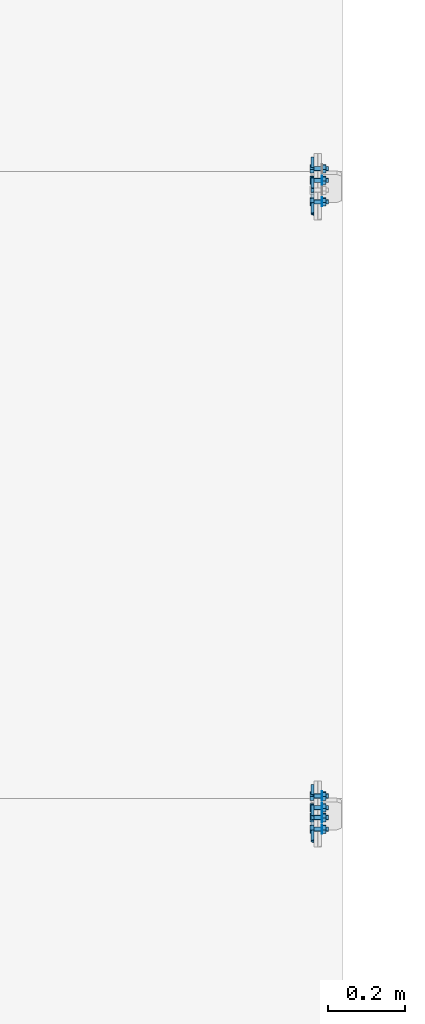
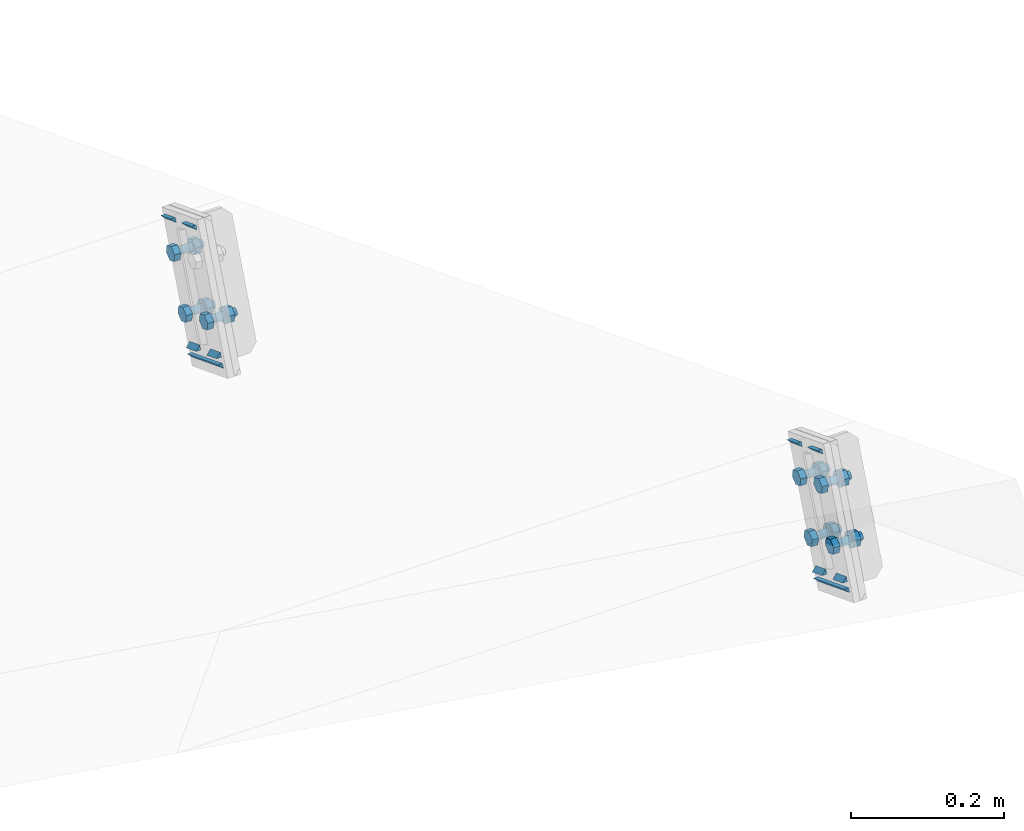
# One storey, part 62 of 72: 27 mechanical fasteners, 20 fasteners.
"""IFC4 building model written with IfcOpenShell, lengths in metres."""

from ifc_helpers import new_model, si_unit, frame, origin_with_axes, place, context, project, spatial, polyline, outline, extrude, type_object, element, save


model = new_model("IFC4")

# Units and contexts
model_context = context("Model", 3, precision=1e-05, world=origin_with_axes())
ifc_project = project(units=[si_unit("LENGTHUNIT", "METRE"), si_unit("AREAUNIT", "SQUARE_METRE"), si_unit("VOLUMEUNIT", "CUBIC_METRE"), si_unit("MASSUNIT", "GRAM", prefix="KILO"), si_unit("TIMEUNIT", "SECOND"), si_unit("PLANEANGLEUNIT", "RADIAN"), si_unit("SOLIDANGLEUNIT", "STERADIAN"), si_unit("THERMODYNAMICTEMPERATUREUNIT", "DEGREE_CELSIUS")], contexts=[model_context])

# Site, building, storey
placement_1 = place(None, origin_with_axes())
site = spatial("IfcSite", under=ifc_project, at=placement_1, Name="Italia", CompositionType="ELEMENT")
building = spatial("IfcBuilding", under=site, at=placement_1, Name="Uffici", CompositionType="ELEMENT")
storey = spatial("IfcBuildingStorey", under=building, at=placement_1, Name="Storey 0", CompositionType="ELEMENT", Elevation=0.0)

# Fasteners
fastener_type_1 = type_object("IfcFastenerType", Name="Collegamento -020_-019", PredefinedType="WELD")
placement_2 = place(placement_1, origin_with_axes())
fastener_1_placement = place(placement_2, origin_with_axes())
element("IfcFastener", 1, at=fastener_1_placement, inside=storey, type_object=fastener_type_1, Name="Collegamento -020_-019", context=model_context, shape_type="SweptSolid", body=[
    extrude(outline(polyline([(0.0, 0.0), (-0.00717354, 0.00695848), (0.0, 0.00695848), (0.0, 0.0)])), frame((13.8951, 3.30124, 5.94341), z_axis=(0.0, -0.93237841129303, 0.361483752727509), x_axis=(1.0, 0.0, 0.0)), (0.0, 0.0, 1.0), 0.0283002),
])
fastener_type_2 = type_object("IfcFastenerType", Name="Collegamento -020_-019", PredefinedType="WELD")
fastener_2_placement = place(placement_2, origin_with_axes())
element("IfcFastener", 2, at=fastener_2_placement, inside=storey, type_object=fastener_type_2, Name="Collegamento -020_-019", context=model_context, shape_type="SweptSolid", body=[
    extrude(outline(polyline([(0.0, 0.0), (0.00717354, -0.00695848), (0.0, -0.00695848), (0.0, 0.0)])), frame((13.8951, 3.2137, 5.79589), z_axis=(0.0, 0.932389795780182, -0.361454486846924), x_axis=(-1.0, 0.0, 0.0)), (0.0, 0.0, 1.0), 0.0282999),
])
fastener_type_3 = type_object("IfcFastenerType", Name="Collegamento -020_-019", PredefinedType="WELD")
fastener_3_placement = place(placement_2, origin_with_axes())
element("IfcFastener", 3, at=fastener_3_placement, inside=storey, type_object=fastener_type_3, Name="Collegamento -020_-019", context=model_context, shape_type="SweptSolid", body=[
    extrude(outline(polyline([(0.0, 0.0), (-0.00717354, 0.00695848), (0.0, 0.00695848), (0.0, 0.0)])), frame((13.8951, 3.23202, 5.76485), z_axis=(0.0, -0.932387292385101, 0.361460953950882), x_axis=(1.0, 0.0, 0.0)), (0.0, 0.0, 1.0), 0.0860998),
])
fastener_type_4 = type_object("IfcFastenerType", Name="Collegamento -020_-019", PredefinedType="WELD")
fastener_4_placement = place(placement_2, origin_with_axes())
element("IfcFastener", 4, at=fastener_4_placement, inside=storey, type_object=fastener_type_4, Name="Collegamento -020_-019", context=model_context, shape_type="SweptSolid", body=[
    extrude(outline(polyline([(0.0, 0.0), (0.00717354, -0.00695801), (0.0, -0.00695801), (0.0, 0.0)])), frame((13.8951, 3.1598, 5.81678), z_axis=(0.0, 0.932380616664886, -0.361478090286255), x_axis=(-1.0, 0.0, 0.0)), (0.0, 0.0, 1.0), 0.0283007),
])
fastener_type_5 = type_object("IfcFastenerType", Name="Collegamento -020_-019", PredefinedType="WELD")
fastener_5_placement = place(placement_2, origin_with_axes())
element("IfcFastener", 5, at=fastener_5_placement, inside=storey, type_object=fastener_type_5, Name="Collegamento -020_-019", context=model_context, shape_type="SweptSolid", body=[
    extrude(outline(polyline([(0.0, 0.0), (-0.00717354, 0.00695801), (0.0, 0.00695801), (0.0, 0.0)])), frame((13.8951, 3.24734, 5.9643), z_axis=(0.0, -0.932387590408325, 0.361460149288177), x_axis=(1.0, 0.0, 0.0)), (0.0, 0.0, 1.0), 0.0282994),
])
fastener_type_6 = type_object("IfcFastenerType", Name="Collegamento -020_-019", PredefinedType="WELD")
fastener_6_placement = place(placement_2, origin_with_axes())
element("IfcFastener", 6, at=fastener_6_placement, inside=storey, type_object=fastener_type_6, Name="Collegamento -020_-019", context=model_context, shape_type="SweptSolid", body=[
    extrude(outline(polyline([(0.0, 0.0), (-0.00717354, 0.00695848), (0.0, 0.00695848), (0.0, 0.0)])), frame((13.8951, 3.30124, 5.94341), z_axis=(0.0, -0.93237841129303, 0.361483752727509), x_axis=(1.0, 0.0, 0.0)), (0.0, 0.0, 1.0), 0.0283002),
])
fastener_type_7 = type_object("IfcFastenerType", Name="Collegamento -020_-019", PredefinedType="WELD")
fastener_7_placement = place(placement_2, origin_with_axes())
element("IfcFastener", 7, at=fastener_7_placement, inside=storey, type_object=fastener_type_7, Name="Collegamento -020_-019", context=model_context, shape_type="SweptSolid", body=[
    extrude(outline(polyline([(0.0, 0.0), (0.00717354, -0.00695848), (0.0, -0.00695848), (0.0, 0.0)])), frame((13.8951, 3.2137, 5.79589), z_axis=(0.0, 0.932389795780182, -0.361454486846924), x_axis=(-1.0, 0.0, 0.0)), (0.0, 0.0, 1.0), 0.0282999),
])
fastener_type_8 = type_object("IfcFastenerType", Name="Collegamento -020_-019", PredefinedType="WELD")
fastener_8_placement = place(placement_2, origin_with_axes())
element("IfcFastener", 8, at=fastener_8_placement, inside=storey, type_object=fastener_type_8, Name="Collegamento -020_-019", context=model_context, shape_type="SweptSolid", body=[
    extrude(outline(polyline([(0.0, 0.0), (-0.00717354, 0.00695848), (0.0, 0.00695848), (0.0, 0.0)])), frame((13.8951, 3.23202, 5.76485), z_axis=(0.0, -0.932387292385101, 0.361460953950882), x_axis=(1.0, 0.0, 0.0)), (0.0, 0.0, 1.0), 0.0860998),
])
fastener_type_9 = type_object("IfcFastenerType", Name="Collegamento -020_-019", PredefinedType="WELD")
fastener_9_placement = place(placement_2, origin_with_axes())
element("IfcFastener", 9, at=fastener_9_placement, inside=storey, type_object=fastener_type_9, Name="Collegamento -020_-019", context=model_context, shape_type="SweptSolid", body=[
    extrude(outline(polyline([(0.0, 0.0), (0.00717354, -0.00695801), (0.0, -0.00695801), (0.0, 0.0)])), frame((13.8951, 3.1598, 5.81678), z_axis=(0.0, 0.932380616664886, -0.361478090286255), x_axis=(-1.0, 0.0, 0.0)), (0.0, 0.0, 1.0), 0.0283007),
])
fastener_type_10 = type_object("IfcFastenerType", Name="Collegamento -020_-019", PredefinedType="WELD")
fastener_10_placement = place(placement_2, origin_with_axes())
element("IfcFastener", 10, at=fastener_10_placement, inside=storey, type_object=fastener_type_10, Name="Collegamento -020_-019", context=model_context, shape_type="SweptSolid", body=[
    extrude(outline(polyline([(0.0, 0.0), (-0.00717354, 0.00695801), (0.0, 0.00695801), (0.0, 0.0)])), frame((13.8951, 3.24734, 5.9643), z_axis=(0.0, -0.932387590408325, 0.361460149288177), x_axis=(1.0, 0.0, 0.0)), (0.0, 0.0, 1.0), 0.0282994),
])

# Mechanical fasteners
mechanical_fastener_type_1 = type_object("IfcMechanicalFastenerType", Name="Collegamento -020_-019", PredefinedType="BOLT")
mechanical_fastener_1_placement = place(placement_2, origin_with_axes())
element("IfcMechanicalFastener", 11, at=mechanical_fastener_1_placement, inside=storey, type_object=mechanical_fastener_type_1, Name="Collegamento -020_-019", NominalDiameter=0.0119999, context=model_context, shape_type="SweptSolid", body=[
    extrude(outline(polyline([(0.0, 0.0), (-0.0111887, -0.00433731), (-0.0205395, 0.00318336), (-0.0187016, 0.0150418), (-0.00751281, 0.0193796), (0.00183773, 0.0118585), (0.0, 0.0)])), frame((13.895, 3.23396, 5.82257), z_axis=(-1.0, 0.0, 0.0), x_axis=(0.0, -1.0, 0.0)), (0.0, 0.0, 1.0), 0.00959969),
])
mechanical_fastener_type_2 = type_object("IfcMechanicalFastenerType", Name="Collegamento -020_-019", PredefinedType="BOLT")
mechanical_fastener_2_placement = place(placement_2, origin_with_axes())
element("IfcMechanicalFastener", 12, at=mechanical_fastener_2_placement, inside=storey, type_object=mechanical_fastener_type_2, Name="Collegamento -020_-019", NominalDiameter=0.012, context=model_context, shape_type="SweptSolid", body=[
    extrude(outline(polyline([(0.0, 0.0), (-0.000204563, -0.00155306), (-0.000803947, -0.00299978), (-0.00175738, -0.00424242), (-0.00300002, -0.00519609), (-0.00444722, -0.00579548), (-0.00600004, -0.00600004), (-0.00755286, -0.00579548), (-0.00900006, -0.00519609), (-0.0102427, -0.00424242), (-0.0111961, -0.00299978), (-0.0117955, -0.00155306), (-0.0120001, 0.0), (-0.0117955, 0.00155306), (-0.0111961, 0.00299978), (-0.0102427, 0.00424242), (-0.00900006, 0.00519609), (-0.00755286, 0.00579548), (-0.00600004, 0.00600004), (-0.00444722, 0.00579548), (-0.00300002, 0.00519609), (-0.00175738, 0.00424242), (-0.000803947, 0.00299978), (-0.000204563, 0.00155306), (0.0, 0.0)])), frame((13.933, 3.23731, 5.83009), z_axis=(-1.0, 0.0, 0.0), x_axis=(0.0, -1.0, 0.0)), (0.0, 0.0, 1.0), 0.0380001),
])
mechanical_fastener_type_3 = type_object("IfcMechanicalFastenerType", Name="Collegamento -020_-019", PredefinedType="BOLT")
mechanical_fastener_3_placement = place(placement_2, origin_with_axes())
element("IfcMechanicalFastener", 13, at=mechanical_fastener_3_placement, inside=storey, type_object=mechanical_fastener_type_3, Name="Collegamento -020_-019", NominalDiameter=0.0119999, context=model_context, shape_type="SweptSolid", body=[
    extrude(outline(polyline([(0.0, 0.0), (-0.0111887, -0.00433731), (-0.0205395, 0.00318336), (-0.0187016, 0.0150418), (-0.00751281, 0.0193796), (0.00183773, 0.0118585), (0.0, 0.0)])), frame((13.9266, 3.23396, 5.82257), z_axis=(-1.0, 0.0, 0.0), x_axis=(0.0, -1.0, 0.0)), (0.0, 0.0, 1.0), 0.00959969),
])
mechanical_fastener_type_4 = type_object("IfcMechanicalFastenerType", Name="Collegamento -020_-019", PredefinedType="BOLT")
mechanical_fastener_4_placement = place(placement_2, origin_with_axes())
element("IfcMechanicalFastener", 14, at=mechanical_fastener_4_placement, inside=storey, type_object=mechanical_fastener_type_4, Name="Collegamento -020_-019", NominalDiameter=0.024, context=model_context, shape_type="SweptSolid", body=[
    extrude(outline(polyline([(0.0, 0.0), (-0.000408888, -0.00310564), (-0.00160789, -0.00600004), (-0.00351477, -0.00848532), (-0.00600004, -0.0103922), (-0.00889421, -0.011591), (-0.0120001, -0.0120001), (-0.015106, -0.011591), (-0.0180001, -0.0103922), (-0.0204854, -0.00848532), (-0.0223923, -0.00600004), (-0.0235913, -0.00310564), (-0.0240002, 0.0), (-0.0235913, 0.00310564), (-0.0223923, 0.00600004), (-0.0204854, 0.00848532), (-0.0180001, 0.0103922), (-0.015106, 0.011591), (-0.0120001, 0.0120001), (-0.00889421, 0.011591), (-0.00600004, 0.0103922), (-0.00351477, 0.00848532), (-0.00160789, 0.00600004), (-0.000408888, 0.00310564), (0.0, 0.0)])), frame((13.917, 3.23131, 5.83009), z_axis=(-1.0, 0.0, 0.0), x_axis=(0.0, -1.0, 0.0)), (0.0, 0.0, 1.0), 0.00199986),
])
mechanical_fastener_type_5 = type_object("IfcMechanicalFastenerType", Name="Collegamento -020_-019", PredefinedType="BOLT")
mechanical_fastener_5_placement = place(placement_2, origin_with_axes())
element("IfcMechanicalFastener", 15, at=mechanical_fastener_5_placement, inside=storey, type_object=mechanical_fastener_type_5, Name="Collegamento -020_-019", NominalDiameter=0.0119997, context=model_context, shape_type="SweptSolid", body=[
    extrude(outline(polyline([(0.0, 0.0), (-0.0111887, -0.00433779), (-0.0205395, 0.00318336), (-0.0187016, 0.0150418), (-0.00751281, 0.0193791), (0.00183773, 0.0118585), (0.0, 0.0)])), frame((13.895, 3.17802, 5.84426), z_axis=(-1.0, 0.0, 0.0), x_axis=(0.0, -1.0, 0.0)), (0.0, 0.0, 1.0), 0.00959969),
])
mechanical_fastener_type_6 = type_object("IfcMechanicalFastenerType", Name="Collegamento -020_-019", PredefinedType="BOLT")
mechanical_fastener_6_placement = place(placement_2, origin_with_axes())
element("IfcMechanicalFastener", 16, at=mechanical_fastener_6_placement, inside=storey, type_object=mechanical_fastener_type_6, Name="Collegamento -020_-019", NominalDiameter=0.012, context=model_context, shape_type="SweptSolid", body=[
    extrude(outline(polyline([(0.0, 0.0), (-0.000204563, -0.00155306), (-0.000803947, -0.00299978), (-0.00175738, -0.00424242), (-0.00300002, -0.00519609), (-0.00444722, -0.00579548), (-0.00600004, -0.00600004), (-0.00755286, -0.00579548), (-0.00900006, -0.00519609), (-0.0102427, -0.00424242), (-0.0111961, -0.00299978), (-0.0117955, -0.00155306), (-0.0120001, 0.0), (-0.0117955, 0.00155306), (-0.0111961, 0.00299978), (-0.0102427, 0.00424242), (-0.00900006, 0.00519609), (-0.00755286, 0.00579548), (-0.00600004, 0.00600004), (-0.00444722, 0.00579548), (-0.00300002, 0.00519609), (-0.00175738, 0.00424242), (-0.000803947, 0.00299978), (-0.000204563, 0.00155306), (0.0, 0.0)])), frame((13.933, 3.18137, 5.85178), z_axis=(-1.0, 0.0, 0.0), x_axis=(0.0, -1.0, 0.0)), (0.0, 0.0, 1.0), 0.0380001),
])
mechanical_fastener_type_7 = type_object("IfcMechanicalFastenerType", Name="Collegamento -020_-019", PredefinedType="BOLT")
mechanical_fastener_7_placement = place(placement_2, origin_with_axes())
element("IfcMechanicalFastener", 17, at=mechanical_fastener_7_placement, inside=storey, type_object=mechanical_fastener_type_7, Name="Collegamento -020_-019", NominalDiameter=0.0119997, context=model_context, shape_type="SweptSolid", body=[
    extrude(outline(polyline([(0.0, 0.0), (-0.0111887, -0.00433779), (-0.0205395, 0.00318336), (-0.0187016, 0.0150418), (-0.00751281, 0.0193791), (0.00183773, 0.0118585), (0.0, 0.0)])), frame((13.9266, 3.17802, 5.84426), z_axis=(-1.0, 0.0, 0.0), x_axis=(0.0, -1.0, 0.0)), (0.0, 0.0, 1.0), 0.00959969),
])
mechanical_fastener_type_8 = type_object("IfcMechanicalFastenerType", Name="Collegamento -020_-019", PredefinedType="BOLT")
mechanical_fastener_8_placement = place(placement_2, origin_with_axes())
element("IfcMechanicalFastener", 18, at=mechanical_fastener_8_placement, inside=storey, type_object=mechanical_fastener_type_8, Name="Collegamento -020_-019", NominalDiameter=0.024, context=model_context, shape_type="SweptSolid", body=[
    extrude(outline(polyline([(0.0, 0.0), (-0.000408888, -0.00310564), (-0.00160789, -0.00600004), (-0.00351477, -0.00848532), (-0.00600004, -0.0103922), (-0.00889421, -0.011591), (-0.0120001, -0.0120001), (-0.015106, -0.011591), (-0.0180001, -0.0103922), (-0.0204854, -0.00848532), (-0.0223923, -0.00600004), (-0.0235913, -0.00310564), (-0.0240002, 0.0), (-0.0235913, 0.00310564), (-0.0223923, 0.00600004), (-0.0204854, 0.00848532), (-0.0180001, 0.0103922), (-0.015106, 0.011591), (-0.0120001, 0.0120001), (-0.00889421, 0.011591), (-0.00600004, 0.0103922), (-0.00351477, 0.00848532), (-0.00160789, 0.00600004), (-0.000408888, 0.00310564), (0.0, 0.0)])), frame((13.917, 3.17537, 5.85178), z_axis=(-1.0, 0.0, 0.0), x_axis=(0.0, -1.0, 0.0)), (0.0, 0.0, 1.0), 0.00199986),
])
mechanical_fastener_type_9 = type_object("IfcMechanicalFastenerType", Name="Collegamento -020_-019", PredefinedType="BOLT")
mechanical_fastener_9_placement = place(placement_2, origin_with_axes())
element("IfcMechanicalFastener", 19, at=mechanical_fastener_9_placement, inside=storey, type_object=mechanical_fastener_type_9, Name="Collegamento -020_-019", NominalDiameter=0.0119997, context=model_context, shape_type="SweptSolid", body=[
    extrude(outline(polyline([(0.0, 0.0), (-0.0111887, -0.00433731), (-0.0205393, 0.00318336), (-0.0187016, 0.0150418), (-0.00751281, 0.0193796), (0.00183797, 0.0118585), (0.0, 0.0)])), frame((13.895, 3.26432, 5.90089), z_axis=(-1.0, 0.0, 0.0), x_axis=(0.0, -1.0, 0.0)), (0.0, 0.0, 1.0), 0.00959969),
])
mechanical_fastener_type_10 = type_object("IfcMechanicalFastenerType", Name="Collegamento -020_-019", PredefinedType="BOLT")
mechanical_fastener_10_placement = place(placement_2, origin_with_axes())
element("IfcMechanicalFastener", 20, at=mechanical_fastener_10_placement, inside=storey, type_object=mechanical_fastener_type_10, Name="Collegamento -020_-019", NominalDiameter=0.012, context=model_context, shape_type="SweptSolid", body=[
    extrude(outline(polyline([(0.0, 0.0), (-0.000204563, -0.00155306), (-0.000803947, -0.00299978), (-0.00175738, -0.00424242), (-0.00300002, -0.00519609), (-0.00444722, -0.00579548), (-0.00600004, -0.00600004), (-0.00755286, -0.00579548), (-0.00900006, -0.00519609), (-0.0102427, -0.00424242), (-0.0111961, -0.00299978), (-0.0117955, -0.00155306), (-0.0120001, 0.0), (-0.0117955, 0.00155306), (-0.0111961, 0.00299978), (-0.0102427, 0.00424242), (-0.00900006, 0.00519609), (-0.00755286, 0.00579548), (-0.00600004, 0.00600004), (-0.00444722, 0.00579548), (-0.00300002, 0.00519609), (-0.00175738, 0.00424242), (-0.000803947, 0.00299978), (-0.000204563, 0.00155306), (0.0, 0.0)])), frame((13.933, 3.26767, 5.90841), z_axis=(-1.0, 0.0, 0.0), x_axis=(0.0, -1.0, 0.0)), (0.0, 0.0, 1.0), 0.0380001),
])
mechanical_fastener_type_11 = type_object("IfcMechanicalFastenerType", Name="Collegamento -020_-019", PredefinedType="BOLT")
mechanical_fastener_11_placement = place(placement_2, origin_with_axes())
element("IfcMechanicalFastener", 21, at=mechanical_fastener_11_placement, inside=storey, type_object=mechanical_fastener_type_11, Name="Collegamento -020_-019", NominalDiameter=0.0119997, context=model_context, shape_type="SweptSolid", body=[
    extrude(outline(polyline([(0.0, 0.0), (-0.0111887, -0.00433731), (-0.0205393, 0.00318336), (-0.0187016, 0.0150418), (-0.00751281, 0.0193796), (0.00183797, 0.0118585), (0.0, 0.0)])), frame((13.9266, 3.26432, 5.90089), z_axis=(-1.0, 0.0, 0.0), x_axis=(0.0, -1.0, 0.0)), (0.0, 0.0, 1.0), 0.00959969),
])

# Fasteners
fastener_type_11 = type_object("IfcFastenerType", Name="Collegamento -030_-029", PredefinedType="WELD")
fastener_11_placement = place(placement_2, origin_with_axes())
element("IfcFastener", 22, at=fastener_11_placement, inside=storey, type_object=fastener_type_11, Name="Collegamento -030_-029", context=model_context, shape_type="SweptSolid", body=[
    extrude(outline(polyline([(0.0, 0.0), (-0.00717354, 0.00695848), (0.0, 0.00695848), (0.0, 0.0)])), frame((13.8951, 1.6679, 6.57674), z_axis=(0.0, -0.932384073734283, 0.361469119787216), x_axis=(1.0, 0.0, 0.0)), (0.0, 0.0, 1.0), 0.0283),
])
fastener_type_12 = type_object("IfcFastenerType", Name="Collegamento -030_-029", PredefinedType="WELD")
fastener_12_placement = place(placement_2, origin_with_axes())
element("IfcFastener", 23, at=fastener_12_placement, inside=storey, type_object=fastener_type_12, Name="Collegamento -030_-029", context=model_context, shape_type="SweptSolid", body=[
    extrude(outline(polyline([(0.0, 0.0), (0.00717354, -0.00695848), (0.0, -0.00695848), (0.0, 0.0)])), frame((13.8951, 1.58036, 6.42922), z_axis=(0.0, 0.932390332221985, -0.361453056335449), x_axis=(-1.0, 0.0, 0.0)), (0.0, 0.0, 1.0), 0.0283),
])
fastener_type_13 = type_object("IfcFastenerType", Name="Collegamento -030_-029", PredefinedType="WELD")
fastener_13_placement = place(placement_2, origin_with_axes())
element("IfcFastener", 24, at=fastener_13_placement, inside=storey, type_object=fastener_type_13, Name="Collegamento -030_-029", context=model_context, shape_type="SweptSolid", body=[
    extrude(outline(polyline([(0.0, 0.0), (-0.00717354, 0.00695753), (0.0, 0.00695753), (0.0, 0.0)])), frame((13.8951, 1.59868, 6.39819), z_axis=(0.0, -0.932389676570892, 0.361454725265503), x_axis=(1.0, 0.0, 0.0)), (0.0, 0.0, 1.0), 0.0861),
])
fastener_type_14 = type_object("IfcFastenerType", Name="Collegamento -030_-029", PredefinedType="WELD")
fastener_14_placement = place(placement_2, origin_with_axes())
element("IfcFastener", 25, at=fastener_14_placement, inside=storey, type_object=fastener_type_14, Name="Collegamento -030_-029", context=model_context, shape_type="SweptSolid", body=[
    extrude(outline(polyline([(0.0, 0.0), (0.00717354, -0.00695848), (0.0, -0.00695848), (0.0, 0.0)])), frame((13.8951, 1.52647, 6.45012), z_axis=(0.0, 0.932391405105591, -0.3614501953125), x_axis=(-1.0, 0.0, 0.0)), (0.0, 0.0, 1.0), 0.0283002),
])
fastener_type_15 = type_object("IfcFastenerType", Name="Collegamento -030_-029", PredefinedType="WELD")
fastener_15_placement = place(placement_2, origin_with_axes())
element("IfcFastener", 26, at=fastener_15_placement, inside=storey, type_object=fastener_type_15, Name="Collegamento -030_-029", context=model_context, shape_type="SweptSolid", body=[
    extrude(outline(polyline([(0.0, 0.0), (-0.00717354, 0.00695753), (0.0, 0.00695753), (0.0, 0.0)])), frame((13.8951, 1.61401, 6.59763), z_axis=(0.0, -0.932389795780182, 0.361454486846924), x_axis=(1.0, 0.0, 0.0)), (0.0, 0.0, 1.0), 0.0282999),
])
fastener_type_16 = type_object("IfcFastenerType", Name="Collegamento -030_-029", PredefinedType="WELD")
fastener_16_placement = place(placement_2, origin_with_axes())
element("IfcFastener", 27, at=fastener_16_placement, inside=storey, type_object=fastener_type_16, Name="Collegamento -030_-029", context=model_context, shape_type="SweptSolid", body=[
    extrude(outline(polyline([(0.0, 0.0), (-0.00717354, 0.00695848), (0.0, 0.00695848), (0.0, 0.0)])), frame((13.8951, 1.6679, 6.57674), z_axis=(0.0, -0.932384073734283, 0.361469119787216), x_axis=(1.0, 0.0, 0.0)), (0.0, 0.0, 1.0), 0.0283),
])
fastener_type_17 = type_object("IfcFastenerType", Name="Collegamento -030_-029", PredefinedType="WELD")
fastener_17_placement = place(placement_2, origin_with_axes())
element("IfcFastener", 28, at=fastener_17_placement, inside=storey, type_object=fastener_type_17, Name="Collegamento -030_-029", context=model_context, shape_type="SweptSolid", body=[
    extrude(outline(polyline([(0.0, 0.0), (0.00717354, -0.00695848), (0.0, -0.00695848), (0.0, 0.0)])), frame((13.8951, 1.58036, 6.42922), z_axis=(0.0, 0.932390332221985, -0.361453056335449), x_axis=(-1.0, 0.0, 0.0)), (0.0, 0.0, 1.0), 0.0283),
])
fastener_type_18 = type_object("IfcFastenerType", Name="Collegamento -030_-029", PredefinedType="WELD")
fastener_18_placement = place(placement_2, origin_with_axes())
element("IfcFastener", 29, at=fastener_18_placement, inside=storey, type_object=fastener_type_18, Name="Collegamento -030_-029", context=model_context, shape_type="SweptSolid", body=[
    extrude(outline(polyline([(0.0, 0.0), (-0.00717354, 0.00695753), (0.0, 0.00695753), (0.0, 0.0)])), frame((13.8951, 1.59868, 6.39819), z_axis=(0.0, -0.932389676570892, 0.361454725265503), x_axis=(1.0, 0.0, 0.0)), (0.0, 0.0, 1.0), 0.0861),
])
fastener_type_19 = type_object("IfcFastenerType", Name="Collegamento -030_-029", PredefinedType="WELD")
fastener_19_placement = place(placement_2, origin_with_axes())
element("IfcFastener", 30, at=fastener_19_placement, inside=storey, type_object=fastener_type_19, Name="Collegamento -030_-029", context=model_context, shape_type="SweptSolid", body=[
    extrude(outline(polyline([(0.0, 0.0), (0.00717354, -0.00695848), (0.0, -0.00695848), (0.0, 0.0)])), frame((13.8951, 1.52647, 6.45012), z_axis=(0.0, 0.932391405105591, -0.3614501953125), x_axis=(-1.0, 0.0, 0.0)), (0.0, 0.0, 1.0), 0.0283002),
])
fastener_type_20 = type_object("IfcFastenerType", Name="Collegamento -030_-029", PredefinedType="WELD")
fastener_20_placement = place(placement_2, origin_with_axes())
element("IfcFastener", 31, at=fastener_20_placement, inside=storey, type_object=fastener_type_20, Name="Collegamento -030_-029", context=model_context, shape_type="SweptSolid", body=[
    extrude(outline(polyline([(0.0, 0.0), (-0.00717354, 0.00695753), (0.0, 0.00695753), (0.0, 0.0)])), frame((13.8951, 1.61401, 6.59763), z_axis=(0.0, -0.932389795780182, 0.361454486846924), x_axis=(1.0, 0.0, 0.0)), (0.0, 0.0, 1.0), 0.0282999),
])

# Mechanical fasteners
mechanical_fastener_type_12 = type_object("IfcMechanicalFastenerType", Name="Collegamento -030_-029", PredefinedType="BOLT")
mechanical_fastener_12_placement = place(placement_2, origin_with_axes())
element("IfcMechanicalFastener", 32, at=mechanical_fastener_12_placement, inside=storey, type_object=mechanical_fastener_type_12, Name="Collegamento -030_-029", NominalDiameter=0.0119998, context=model_context, shape_type="SweptSolid", body=[
    extrude(outline(polyline([(0.0, 0.0), (-0.0111887, -0.00433731), (-0.0205394, 0.00318336), (-0.0187016, 0.0150418), (-0.00751293, 0.0193796), (0.00183785, 0.0118585), (0.0, 0.0)])), frame((13.895, 1.60063, 6.4559), z_axis=(-1.0, 0.0, 0.0), x_axis=(0.0, -1.0, 0.0)), (0.0, 0.0, 1.0), 0.00959969),
])
mechanical_fastener_type_13 = type_object("IfcMechanicalFastenerType", Name="Collegamento -030_-029", PredefinedType="BOLT")
mechanical_fastener_13_placement = place(placement_2, origin_with_axes())
element("IfcMechanicalFastener", 33, at=mechanical_fastener_13_placement, inside=storey, type_object=mechanical_fastener_type_13, Name="Collegamento -030_-029", NominalDiameter=0.012, context=model_context, shape_type="SweptSolid", body=[
    extrude(outline(polyline([(0.0, 0.0), (-0.000204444, -0.00155306), (-0.000803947, -0.00299978), (-0.00175738, -0.00424242), (-0.00300002, -0.00519609), (-0.0044471, -0.00579548), (-0.00600004, -0.00600004), (-0.00755298, -0.00579548), (-0.00900006, -0.00519609), (-0.0102427, -0.00424242), (-0.0111961, -0.00299978), (-0.0117956, -0.00155306), (-0.0120001, 0.0), (-0.0117956, 0.00155306), (-0.0111961, 0.00299978), (-0.0102427, 0.00424242), (-0.00900006, 0.00519609), (-0.00755298, 0.00579548), (-0.00600004, 0.00600004), (-0.0044471, 0.00579548), (-0.00300002, 0.00519609), (-0.00175738, 0.00424242), (-0.000803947, 0.00299978), (-0.000204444, 0.00155306), (0.0, 0.0)])), frame((13.933, 1.60398, 6.46342), z_axis=(-1.0, 0.0, 0.0), x_axis=(0.0, -1.0, 0.0)), (0.0, 0.0, 1.0), 0.0380001),
])
mechanical_fastener_type_14 = type_object("IfcMechanicalFastenerType", Name="Collegamento -030_-029", PredefinedType="BOLT")
mechanical_fastener_14_placement = place(placement_2, origin_with_axes())
element("IfcMechanicalFastener", 34, at=mechanical_fastener_14_placement, inside=storey, type_object=mechanical_fastener_type_14, Name="Collegamento -030_-029", NominalDiameter=0.0119998, context=model_context, shape_type="SweptSolid", body=[
    extrude(outline(polyline([(0.0, 0.0), (-0.0111887, -0.00433731), (-0.0205394, 0.00318336), (-0.0187016, 0.0150418), (-0.00751293, 0.0193796), (0.00183785, 0.0118585), (0.0, 0.0)])), frame((13.9266, 1.60063, 6.4559), z_axis=(-1.0, 0.0, 0.0), x_axis=(0.0, -1.0, 0.0)), (0.0, 0.0, 1.0), 0.00959969),
])
mechanical_fastener_type_15 = type_object("IfcMechanicalFastenerType", Name="Collegamento -030_-029", PredefinedType="BOLT")
mechanical_fastener_15_placement = place(placement_2, origin_with_axes())
element("IfcMechanicalFastener", 35, at=mechanical_fastener_15_placement, inside=storey, type_object=mechanical_fastener_type_15, Name="Collegamento -030_-029", NominalDiameter=0.024, context=model_context, shape_type="SweptSolid", body=[
    extrude(outline(polyline([(0.0, 0.0), (-0.000408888, -0.00310564), (-0.00160766, -0.00600004), (-0.00351465, -0.00848532), (-0.00599992, -0.0103922), (-0.00889409, -0.011591), (-0.012, -0.0120001), (-0.0151058, -0.011591), (-0.018, -0.0103922), (-0.0204853, -0.00848532), (-0.0223923, -0.00600004), (-0.023591, -0.00310564), (-0.0239999, 0.0), (-0.023591, 0.00310564), (-0.0223923, 0.00600004), (-0.0204853, 0.00848532), (-0.018, 0.0103922), (-0.0151058, 0.011591), (-0.012, 0.0120001), (-0.00889409, 0.011591), (-0.00599992, 0.0103922), (-0.00351465, 0.00848532), (-0.00160766, 0.00600004), (-0.000408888, 0.00310564), (0.0, 0.0)])), frame((13.917, 1.59798, 6.46342), z_axis=(-1.0, 0.0, 0.0), x_axis=(0.0, -1.0, 0.0)), (0.0, 0.0, 1.0), 0.00199986),
])
mechanical_fastener_type_16 = type_object("IfcMechanicalFastenerType", Name="Collegamento -030_-029", PredefinedType="BOLT")
mechanical_fastener_16_placement = place(placement_2, origin_with_axes())
element("IfcMechanicalFastener", 36, at=mechanical_fastener_16_placement, inside=storey, type_object=mechanical_fastener_type_16, Name="Collegamento -030_-029", NominalDiameter=0.0119999, context=model_context, shape_type="SweptSolid", body=[
    extrude(outline(polyline([(0.0, 0.0), (-0.0111886, -0.00433779), (-0.0205393, 0.00318336), (-0.0187014, 0.0150418), (-0.00751281, 0.0193791), (0.00183797, 0.0118585), (0.0, 0.0)])), frame((13.895, 1.54468, 6.47759), z_axis=(-1.0, 0.0, 0.0), x_axis=(0.0, -1.0, 0.0)), (0.0, 0.0, 1.0), 0.00959969),
])
mechanical_fastener_type_17 = type_object("IfcMechanicalFastenerType", Name="Collegamento -030_-029", PredefinedType="BOLT")
mechanical_fastener_17_placement = place(placement_2, origin_with_axes())
element("IfcMechanicalFastener", 37, at=mechanical_fastener_17_placement, inside=storey, type_object=mechanical_fastener_type_17, Name="Collegamento -030_-029", NominalDiameter=0.012, context=model_context, shape_type="SweptSolid", body=[
    extrude(outline(polyline([(0.0, 0.0), (-0.000204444, -0.00155306), (-0.000803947, -0.00299978), (-0.00175738, -0.00424242), (-0.00300002, -0.00519609), (-0.0044471, -0.00579548), (-0.00600004, -0.00600004), (-0.00755298, -0.00579548), (-0.00900006, -0.00519609), (-0.0102427, -0.00424242), (-0.0111961, -0.00299978), (-0.0117956, -0.00155306), (-0.0120001, 0.0), (-0.0117956, 0.00155306), (-0.0111961, 0.00299978), (-0.0102427, 0.00424242), (-0.00900006, 0.00519609), (-0.00755298, 0.00579548), (-0.00600004, 0.00600004), (-0.0044471, 0.00579548), (-0.00300002, 0.00519609), (-0.00175738, 0.00424242), (-0.000803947, 0.00299978), (-0.000204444, 0.00155306), (0.0, 0.0)])), frame((13.933, 1.54803, 6.48511), z_axis=(-1.0, 0.0, 0.0), x_axis=(0.0, -1.0, 0.0)), (0.0, 0.0, 1.0), 0.0380001),
])
mechanical_fastener_type_18 = type_object("IfcMechanicalFastenerType", Name="Collegamento -030_-029", PredefinedType="BOLT")
mechanical_fastener_18_placement = place(placement_2, origin_with_axes())
element("IfcMechanicalFastener", 38, at=mechanical_fastener_18_placement, inside=storey, type_object=mechanical_fastener_type_18, Name="Collegamento -030_-029", NominalDiameter=0.0119999, context=model_context, shape_type="SweptSolid", body=[
    extrude(outline(polyline([(0.0, 0.0), (-0.0111886, -0.00433779), (-0.0205393, 0.00318336), (-0.0187014, 0.0150418), (-0.00751281, 0.0193791), (0.00183797, 0.0118585), (0.0, 0.0)])), frame((13.9266, 1.54468, 6.47759), z_axis=(-1.0, 0.0, 0.0), x_axis=(0.0, -1.0, 0.0)), (0.0, 0.0, 1.0), 0.00959969),
])
mechanical_fastener_type_19 = type_object("IfcMechanicalFastenerType", Name="Collegamento -030_-029", PredefinedType="BOLT")
mechanical_fastener_19_placement = place(placement_2, origin_with_axes())
element("IfcMechanicalFastener", 39, at=mechanical_fastener_19_placement, inside=storey, type_object=mechanical_fastener_type_19, Name="Collegamento -030_-029", NominalDiameter=0.024, context=model_context, shape_type="SweptSolid", body=[
    extrude(outline(polyline([(0.0, 0.0), (-0.000408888, -0.00310564), (-0.00160766, -0.00600004), (-0.00351465, -0.00848532), (-0.00599992, -0.0103922), (-0.00889409, -0.011591), (-0.012, -0.0120001), (-0.0151058, -0.011591), (-0.018, -0.0103922), (-0.0204853, -0.00848532), (-0.0223923, -0.00600004), (-0.023591, -0.00310564), (-0.0239999, 0.0), (-0.023591, 0.00310564), (-0.0223923, 0.00600004), (-0.0204853, 0.00848532), (-0.018, 0.0103922), (-0.0151058, 0.011591), (-0.012, 0.0120001), (-0.00889409, 0.011591), (-0.00599992, 0.0103922), (-0.00351465, 0.00848532), (-0.00160766, 0.00600004), (-0.000408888, 0.00310564), (0.0, 0.0)])), frame((13.917, 1.54203, 6.48511), z_axis=(-1.0, 0.0, 0.0), x_axis=(0.0, -1.0, 0.0)), (0.0, 0.0, 1.0), 0.00199986),
])
mechanical_fastener_type_20 = type_object("IfcMechanicalFastenerType", Name="Collegamento -030_-029", PredefinedType="BOLT")
mechanical_fastener_20_placement = place(placement_2, origin_with_axes())
element("IfcMechanicalFastener", 40, at=mechanical_fastener_20_placement, inside=storey, type_object=mechanical_fastener_type_20, Name="Collegamento -030_-029", NominalDiameter=0.0119999, context=model_context, shape_type="SweptSolid", body=[
    extrude(outline(polyline([(0.0, 0.0), (-0.0111886, -0.00433731), (-0.0205394, 0.00318336), (-0.0187014, 0.0150418), (-0.00751281, 0.0193796), (0.00183785, 0.0118585), (0.0, 0.0)])), frame((13.895, 1.63099, 6.53422), z_axis=(-1.0, 0.0, 0.0), x_axis=(0.0, -1.0, 0.0)), (0.0, 0.0, 1.0), 0.00959969),
])
mechanical_fastener_type_21 = type_object("IfcMechanicalFastenerType", Name="Collegamento -030_-029", PredefinedType="BOLT")
mechanical_fastener_21_placement = place(placement_2, origin_with_axes())
element("IfcMechanicalFastener", 41, at=mechanical_fastener_21_placement, inside=storey, type_object=mechanical_fastener_type_21, Name="Collegamento -030_-029", NominalDiameter=0.012, context=model_context, shape_type="SweptSolid", body=[
    extrude(outline(polyline([(0.0, 0.0), (-0.000204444, -0.00155306), (-0.000803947, -0.00299978), (-0.00175738, -0.00424242), (-0.00300002, -0.00519609), (-0.0044471, -0.00579548), (-0.00600004, -0.00600004), (-0.00755298, -0.00579548), (-0.00900006, -0.00519609), (-0.0102427, -0.00424242), (-0.0111961, -0.00299978), (-0.0117956, -0.00155306), (-0.0120001, 0.0), (-0.0117956, 0.00155306), (-0.0111961, 0.00299978), (-0.0102427, 0.00424242), (-0.00900006, 0.00519609), (-0.00755298, 0.00579548), (-0.00600004, 0.00600004), (-0.0044471, 0.00579548), (-0.00300002, 0.00519609), (-0.00175738, 0.00424242), (-0.000803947, 0.00299978), (-0.000204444, 0.00155306), (0.0, 0.0)])), frame((13.933, 1.63434, 6.54174), z_axis=(-1.0, 0.0, 0.0), x_axis=(0.0, -1.0, 0.0)), (0.0, 0.0, 1.0), 0.0380001),
])
mechanical_fastener_type_22 = type_object("IfcMechanicalFastenerType", Name="Collegamento -030_-029", PredefinedType="BOLT")
mechanical_fastener_22_placement = place(placement_2, origin_with_axes())
element("IfcMechanicalFastener", 42, at=mechanical_fastener_22_placement, inside=storey, type_object=mechanical_fastener_type_22, Name="Collegamento -030_-029", NominalDiameter=0.0119999, context=model_context, shape_type="SweptSolid", body=[
    extrude(outline(polyline([(0.0, 0.0), (-0.0111886, -0.00433731), (-0.0205394, 0.00318336), (-0.0187014, 0.0150418), (-0.00751281, 0.0193796), (0.00183785, 0.0118585), (0.0, 0.0)])), frame((13.9266, 1.63099, 6.53422), z_axis=(-1.0, 0.0, 0.0), x_axis=(0.0, -1.0, 0.0)), (0.0, 0.0, 1.0), 0.00959969),
])
mechanical_fastener_type_23 = type_object("IfcMechanicalFastenerType", Name="Collegamento -030_-029", PredefinedType="BOLT")
mechanical_fastener_23_placement = place(placement_2, origin_with_axes())
element("IfcMechanicalFastener", 43, at=mechanical_fastener_23_placement, inside=storey, type_object=mechanical_fastener_type_23, Name="Collegamento -030_-029", NominalDiameter=0.024, context=model_context, shape_type="SweptSolid", body=[
    extrude(outline(polyline([(0.0, 0.0), (-0.000408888, -0.00310564), (-0.00160766, -0.00600004), (-0.00351465, -0.00848532), (-0.00599992, -0.0103922), (-0.00889409, -0.011591), (-0.012, -0.0120001), (-0.0151058, -0.011591), (-0.018, -0.0103922), (-0.0204853, -0.00848532), (-0.0223923, -0.00600004), (-0.023591, -0.00310564), (-0.0239999, 0.0), (-0.023591, 0.00310564), (-0.0223923, 0.00600004), (-0.0204853, 0.00848532), (-0.018, 0.0103922), (-0.0151058, 0.011591), (-0.012, 0.0120001), (-0.00889409, 0.011591), (-0.00599992, 0.0103922), (-0.00351465, 0.00848532), (-0.00160766, 0.00600004), (-0.000408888, 0.00310564), (0.0, 0.0)])), frame((13.917, 1.62834, 6.54174), z_axis=(-1.0, 0.0, 0.0), x_axis=(0.0, -1.0, 0.0)), (0.0, 0.0, 1.0), 0.00199986),
])
mechanical_fastener_type_24 = type_object("IfcMechanicalFastenerType", Name="Collegamento -030_-029", PredefinedType="BOLT")
mechanical_fastener_24_placement = place(placement_2, origin_with_axes())
element("IfcMechanicalFastener", 44, at=mechanical_fastener_24_placement, inside=storey, type_object=mechanical_fastener_type_24, Name="Collegamento -030_-029", NominalDiameter=0.0119998, context=model_context, shape_type="SweptSolid", body=[
    extrude(outline(polyline([(0.0, 0.0), (-0.0111886, -0.00433779), (-0.0205394, 0.00318336), (-0.0187016, 0.0150418), (-0.00751281, 0.0193791), (0.00183785, 0.0118585), (0.0, 0.0)])), frame((13.895, 1.57505, 6.55591), z_axis=(-1.0, 0.0, 0.0), x_axis=(0.0, -1.0, 0.0)), (0.0, 0.0, 1.0), 0.00959969),
])
mechanical_fastener_type_25 = type_object("IfcMechanicalFastenerType", Name="Collegamento -030_-029", PredefinedType="BOLT")
mechanical_fastener_25_placement = place(placement_2, origin_with_axes())
element("IfcMechanicalFastener", 45, at=mechanical_fastener_25_placement, inside=storey, type_object=mechanical_fastener_type_25, Name="Collegamento -030_-029", NominalDiameter=0.012, context=model_context, shape_type="SweptSolid", body=[
    extrude(outline(polyline([(0.0, 0.0), (-0.000204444, -0.00155306), (-0.000803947, -0.00299978), (-0.00175738, -0.00424242), (-0.00300002, -0.00519609), (-0.0044471, -0.00579548), (-0.00600004, -0.00600004), (-0.00755298, -0.00579548), (-0.00900006, -0.00519609), (-0.0102427, -0.00424242), (-0.0111961, -0.00299978), (-0.0117956, -0.00155306), (-0.0120001, 0.0), (-0.0117956, 0.00155306), (-0.0111961, 0.00299978), (-0.0102427, 0.00424242), (-0.00900006, 0.00519609), (-0.00755298, 0.00579548), (-0.00600004, 0.00600004), (-0.0044471, 0.00579548), (-0.00300002, 0.00519609), (-0.00175738, 0.00424242), (-0.000803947, 0.00299978), (-0.000204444, 0.00155306), (0.0, 0.0)])), frame((13.933, 1.5784, 6.56343), z_axis=(-1.0, 0.0, 0.0), x_axis=(0.0, -1.0, 0.0)), (0.0, 0.0, 1.0), 0.0380001),
])
mechanical_fastener_type_26 = type_object("IfcMechanicalFastenerType", Name="Collegamento -030_-029", PredefinedType="BOLT")
mechanical_fastener_26_placement = place(placement_2, origin_with_axes())
element("IfcMechanicalFastener", 46, at=mechanical_fastener_26_placement, inside=storey, type_object=mechanical_fastener_type_26, Name="Collegamento -030_-029", NominalDiameter=0.0119998, context=model_context, shape_type="SweptSolid", body=[
    extrude(outline(polyline([(0.0, 0.0), (-0.0111886, -0.00433779), (-0.0205394, 0.00318336), (-0.0187016, 0.0150418), (-0.00751281, 0.0193791), (0.00183785, 0.0118585), (0.0, 0.0)])), frame((13.9266, 1.57505, 6.55591), z_axis=(-1.0, 0.0, 0.0), x_axis=(0.0, -1.0, 0.0)), (0.0, 0.0, 1.0), 0.00959969),
])
mechanical_fastener_type_27 = type_object("IfcMechanicalFastenerType", Name="Collegamento -030_-029", PredefinedType="BOLT")
mechanical_fastener_27_placement = place(placement_2, origin_with_axes())
element("IfcMechanicalFastener", 47, at=mechanical_fastener_27_placement, inside=storey, type_object=mechanical_fastener_type_27, Name="Collegamento -030_-029", NominalDiameter=0.024, context=model_context, shape_type="SweptSolid", body=[
    extrude(outline(polyline([(0.0, 0.0), (-0.000408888, -0.00310564), (-0.00160766, -0.00600004), (-0.00351465, -0.00848532), (-0.00599992, -0.0103922), (-0.00889409, -0.011591), (-0.012, -0.0120001), (-0.0151058, -0.011591), (-0.018, -0.0103922), (-0.0204853, -0.00848532), (-0.0223923, -0.00600004), (-0.023591, -0.00310564), (-0.0239999, 0.0), (-0.023591, 0.00310564), (-0.0223923, 0.00600004), (-0.0204853, 0.00848532), (-0.018, 0.0103922), (-0.0151058, 0.011591), (-0.012, 0.0120001), (-0.00889409, 0.011591), (-0.00599992, 0.0103922), (-0.00351465, 0.00848532), (-0.00160766, 0.00600004), (-0.000408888, 0.00310564), (0.0, 0.0)])), frame((13.917, 1.5724, 6.56343), z_axis=(-1.0, 0.0, 0.0), x_axis=(0.0, -1.0, 0.0)), (0.0, 0.0, 1.0), 0.00199986),
])

save(model, "model.ifc")
